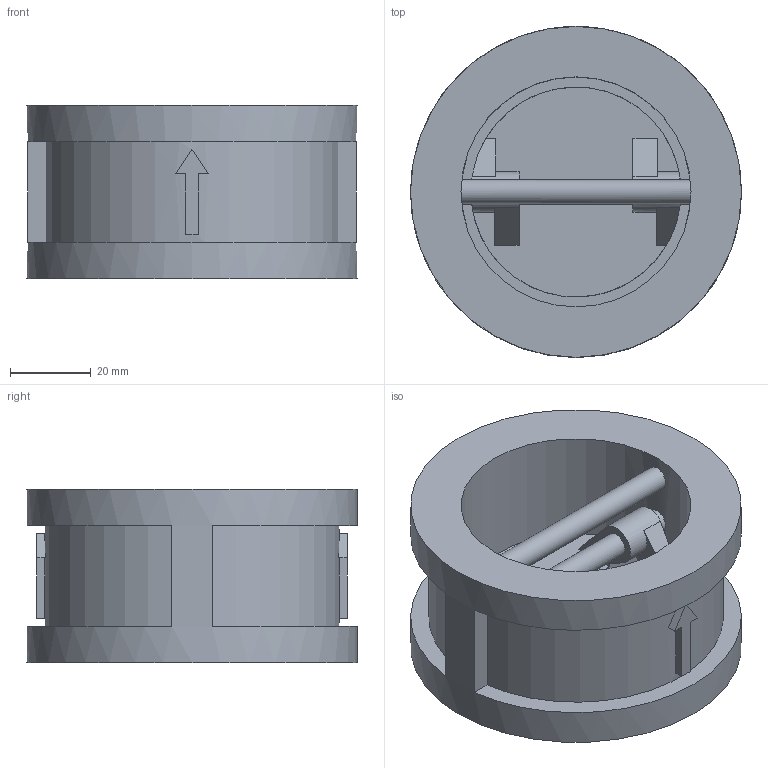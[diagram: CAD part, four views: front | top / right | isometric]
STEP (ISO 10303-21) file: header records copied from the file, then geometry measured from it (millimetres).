
FILE_DESCRIPTION(('STEP AP203'), '1');
FILE_NAME('孰囡囗 钺疣蝽 溻篚耱忸瘅囹 戾骠豚眦邂 010C DN32', '', ('UNSPECIFIED'), ('UNSPECIFIED'), 'ASCON STEP Converter 1.6', 'ASCON Math Kernel', '');
FILE_SCHEMA(('CONFIG_CONTROL_DESIGN'));
Length unit declared in the file: millimetre
Bounding box: 82 x 82 x 43 mm (x, y, z)
Volume: 127456 mm3; surface area: 35076.2 mm2
Topology: 1 solids, 1 shells, 73 faces, 201 edges, 132 vertices
Faces by surface type: plane 55, cylinder 16, cone 2
Full cylindrical faces by diameter (mm): 6 x4, 57 x1, 82 x1
Entity records: 3596 total; most frequent: CARTESIAN_POINT 1129, ORIENTED_EDGE 388, DIRECTION 364, EDGE_CURVE 194, VERTEX_POINT 132, LINE 124, VECTOR 124, AXIS2_PLACEMENT_3D 120
